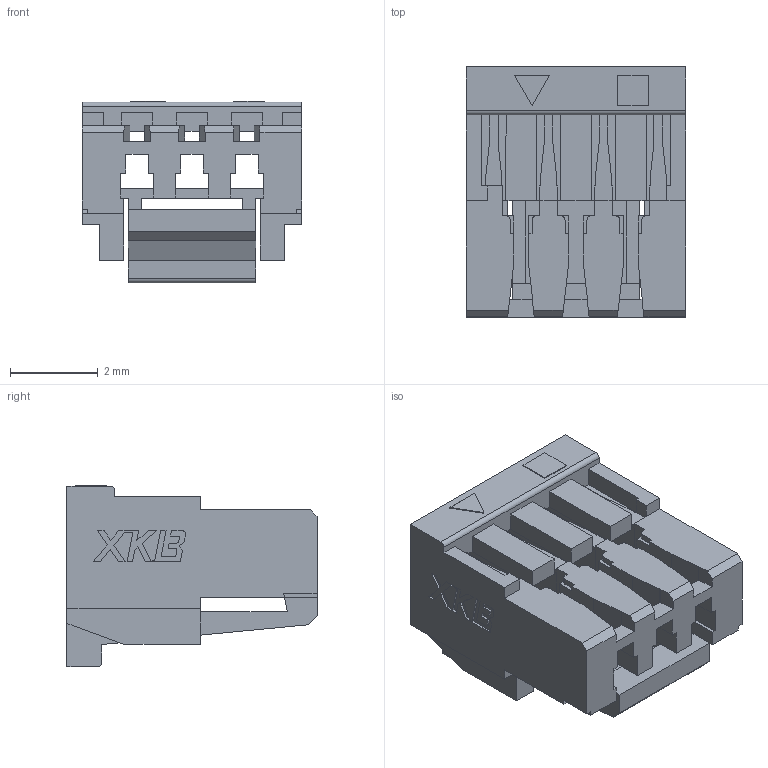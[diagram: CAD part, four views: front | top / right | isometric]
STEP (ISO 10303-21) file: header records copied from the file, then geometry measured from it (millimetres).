
FILE_DESCRIPTION (( 'STEP AP214' ), '1' );
FILE_NAME ('GHR-03V-S(CAN).STEP', '2022-02-21T08:10:28', ( 'User' ), ( 'China' ), 'SwSTEP 2.0', 'SolidWorks 2016', '' );
FILE_SCHEMA (( 'AUTOMOTIVE_DESIGN' ));
Length unit declared in the file: millimetre
Products named in the file (1): GHR-03V-S(CAN)
Bounding box: 5 x 5.7 x 4.14 mm (x, y, z)
Volume: 47.1 mm3; surface area: 243.9 mm2
Topology: 1 solids, 1 shells, 298 faces, 897 edges, 593 vertices
Faces by surface type: plane 284, cylinder 14
Entity records: 9961 total; most frequent: CARTESIAN_POINT 1879, ORIENTED_EDGE 1794, DIRECTION 1493, EDGE_CURVE 897, VECTOR 839, LINE 839, VERTEX_POINT 593, AXIS2_PLACEMENT_3D 327
